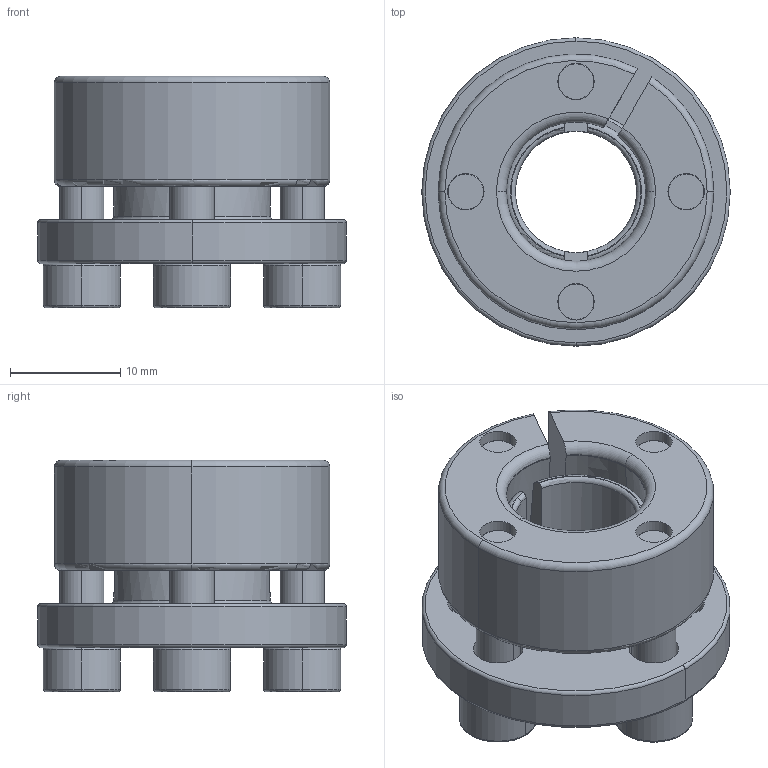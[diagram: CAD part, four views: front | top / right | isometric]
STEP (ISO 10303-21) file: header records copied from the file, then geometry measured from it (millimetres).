
FILE_DESCRIPTION (( 'STEP AP203' ), '1' );
FILE_NAME ('SAPL-B-11-25.STEP', '2013-07-17T05:32:39', ( 'MYCOM' ), ( '' ), 'SwSTEP 2.0', 'SolidWorks 2012', '' );
FILE_SCHEMA (( 'CONFIG_CONTROL_DESIGN' ));
Length unit declared in the file: millimetre
Products named in the file (1): SAPL-B-11-25
Bounding box: 28 x 28 x 21 mm (x, y, z)
Volume: 6484.8 mm3; surface area: 4745.2 mm2
Topology: 1 solids, 1 shells, 211 faces, 515 edges, 306 vertices
Faces by surface type: plane 74, cylinder 53, torus 51, cone 33
Entity records: 6373 total; most frequent: CARTESIAN_POINT 1213, DIRECTION 1166, ORIENTED_EDGE 1014, EDGE_CURVE 507, AXIS2_PLACEMENT_3D 483, VERTEX_POINT 306, CIRCLE 271, EDGE_LOOP 237
